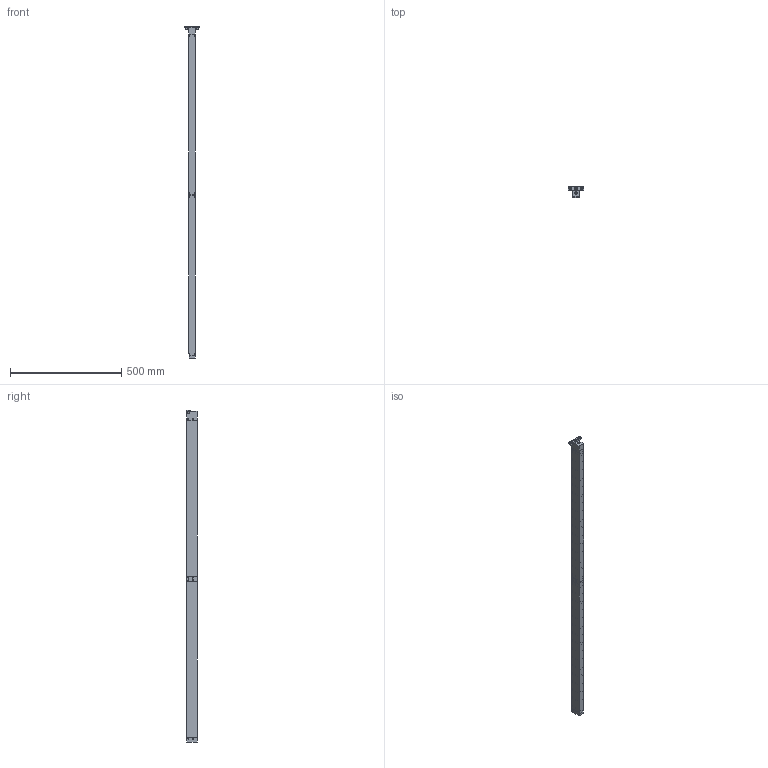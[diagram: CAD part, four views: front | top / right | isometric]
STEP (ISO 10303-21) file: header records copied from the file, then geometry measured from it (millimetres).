
FILE_DESCRIPTION(/* description */ ('DIE LIFTER'),/* implementation_level */ '2;1');
FILE_NAME(/* name */ 'S:\EASCN Vault\Designs\Standard Part\DIE LIFTERS\EHB\EHB- 3D step\EHB28 - 3D step complete serie\EHB28-32.stp',/* time_stamp */ '2019-11-27T10:49:53+08:00',/* author */ ('yue.yang'),/* organization */ (''),/* preprocessor_version */ 'ST-DEVELOPER v17',/* originating_system */ 'Autodesk Inventor 2019',/* authorisation */ '');
FILE_SCHEMA (('AUTOMOTIVE_DESIGN { 1 0 10303 214 3 1 1 }'));
Length unit declared in the file: millimetre
Products named in the file (2): EHB28-32; EHB28-32_Substitute_1
Assembly tree (1 placements, depth 2):
  EHB28-32
    EHB28-32_Substitute_1
Bounding box: 70 x 47.8 x 1489 mm (x, y, z)
Volume: 1669784.5 mm3; surface area: 425556.7 mm2
Topology: 35 solids, 35 shells, 993 faces, 2691 edges, 1902 vertices
Faces by surface type: plane 407, cylinder 311, cone 143, torus 100, sphere 32
Full cylindrical faces by diameter (mm): 3 x3, 5 x12, 5.5 x2, 6 x37, 6.5 x3, 6.647 x4, 7.5 x1, 10 x5, 10.5 x1, 11.445 x1, 12 x3, 16 x32, 20 x32, 21.5 x32, 24.05 x32, 24.2 x32
Entity records: 37639 total; most frequent: CARTESIAN_POINT 10255, DIRECTION 5773, ORIENTED_EDGE 5354, EDGE_CURVE 2677, AXIS2_PLACEMENT_3D 2460, VERTEX_POINT 1902, CIRCLE 1464, EDGE_LOOP 1261
